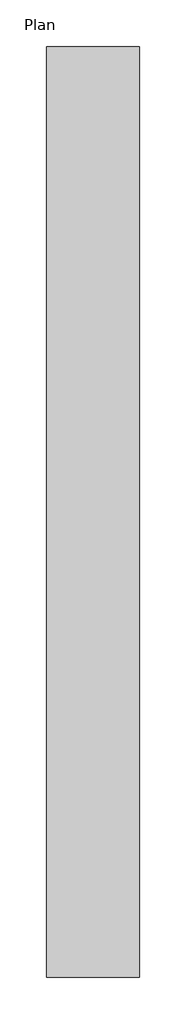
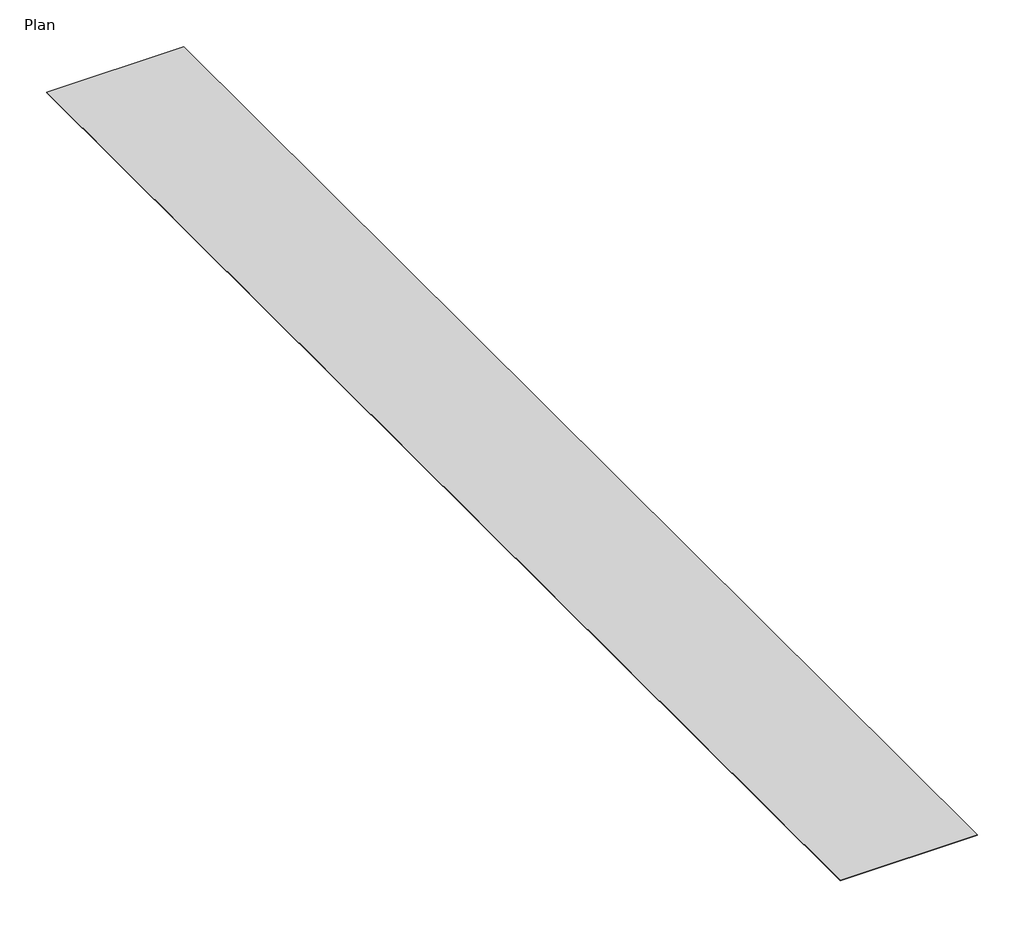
# One storey: 1 proxy.
"""IFC4 building model written with IfcOpenShell, lengths in millimetres."""

from ifc_helpers import new_model, si_unit, origin, place, context, project, spatial, transform, mapped, element, save
from components import generic_models_8a9cbf60

model = new_model("IFC4")

# Units and contexts
model_context = context("Model", 3, world=origin())
ifc_project = project(units=[si_unit("LENGTHUNIT", "METRE", prefix="MILLI")], contexts=[model_context])

# Site, building, storey
site = spatial("IfcSite", under=ifc_project)
building = spatial("IfcBuilding", under=site)
storey = spatial("IfcBuildingStorey", under=building, Name="Plan", Elevation=0.0)

# Proxy
placement = place(None, origin())
generic_models_shape = generic_models_8a9cbf60(model_context)
element("IfcBuildingElementProxy", 1, Name="AQUAPANEL Tape (10 cm) : AQUAPANEL Tape (10 cm)", ObjectType="AQUAPANEL Tape (10 cm) : AQUAPANEL Tape (10 cm)", at=placement, inside=storey, context=model_context, shape_type="MappedRepresentation", body=[
    mapped(generic_models_shape, transform((0.0, 0.0, 0.0), x_axis=(1.0, 0.0, 0.0), y_axis=(0.0, 1.0, 0.0), z_axis=(0.0, 0.0, 1.0))),
])

save(model, "model.ifc")
